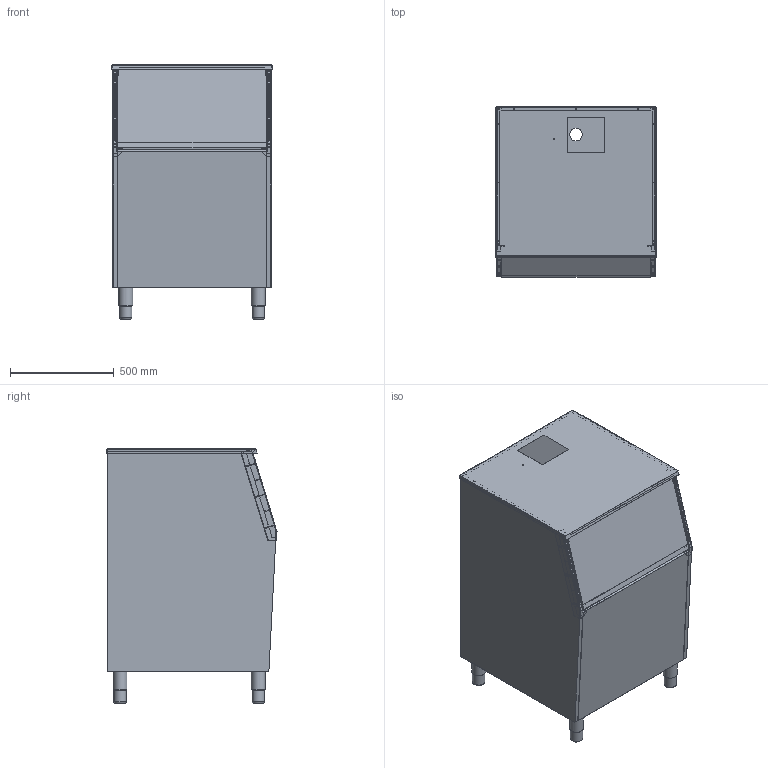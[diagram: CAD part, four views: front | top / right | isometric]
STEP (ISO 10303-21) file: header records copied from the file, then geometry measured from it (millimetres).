
FILE_DESCRIPTION(/* description */ ('Unknown'),/* implementation_level */ '2;1');
FILE_NAME(/* name */ 'B-500',/* time_stamp */ '2018-04-24T09:02:41+02:00',/* author */ ('Unknown'),/* organization */ ('Unknown'),/* preprocessor_version */ 'ST-DEVELOPER v16.7',/* originating_system */ 'DEX',/* authorisation */ $);
FILE_SCHEMA (('CONFIG_CONTROL_DESIGN'));
Products named in the file (14): B-500; 42-9+6748_oa_0; 42-7+6736; 42-6+6644; 42-6+6643; 42-21; 42-80+6752_oa_1; 42-79+6751_oa_2; 42-2+6730; 42-4+6733; 42-2+6731; 42-5+6734; 42-3+6732; 42-12+30731
Assembly tree (16 placements, depth 4):
  B-500
    42-9+6748_oa_0
      42-7+6736
    42-6+6644
    42-6+6643
    42-21  x4
    42-80+6752_oa_1
      42-79+6751_oa_2
        42-2+6730
        42-4+6733
        42-2+6731
        42-5+6734
        42-3+6732
    42-12+30731
Bounding box: 771.4 x 819.62 x 1224.3 mm (x, y, z)
Volume: 6200144.1 mm3; surface area: 10488298.7 mm2
Topology: 17 solids, 17 shells, 1892 faces, 4992 edges, 3042 vertices
Faces by surface type: plane 878, cylinder 715, bspline 205, sphere 78, cone 12, torus 4
Full cylindrical faces by diameter (mm): 2.7 x27, 4 x8, 4.25 x44, 5 x8, 6 x1, 10 x4, 21 x4, 22 x2, 60 x5, 67 x4
Entity records: 59855 total; most frequent: CARTESIAN_POINT 14602, ORIENTED_EDGE 9384, DIRECTION 9187, EDGE_CURVE 4692, AXIS2_PLACEMENT_3D 3136, VERTEX_POINT 2949, LINE 2915, VECTOR 2915
